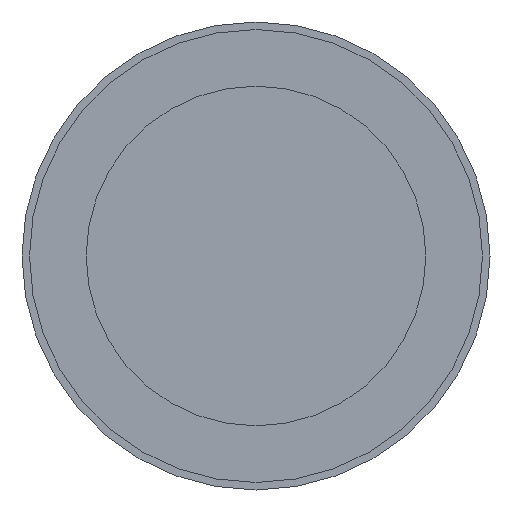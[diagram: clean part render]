
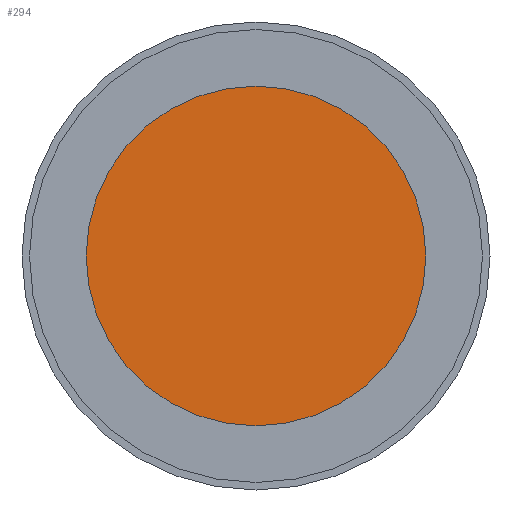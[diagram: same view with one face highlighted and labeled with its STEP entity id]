
A CAD part, front view. The second image highlights one B-rep face of the part: STEP entity #294.
In plain terms, the highlighted planar face has unit normal (0, -1, 0).
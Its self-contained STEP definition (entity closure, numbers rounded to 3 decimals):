
#5=CARTESIAN_POINT('',(0.,0.,0.));
#6=DIRECTION('',(0.,-1.,0.));
#7=DIRECTION('',(0.,0.,-1.));
#8=AXIS2_PLACEMENT_3D('',#5,#6,#7);
#14=CARTESIAN_POINT('',(0.,0.,0.));
#15=DIRECTION('',(0.,1.,0.));
#16=DIRECTION('',(0.,0.,-1.));
#17=AXIS2_PLACEMENT_3D('',#14,#15,#16);
#225=CARTESIAN_POINT('',(0.,0.,-0.45));
#227=VERTEX_POINT('',#225);
#255=CARTESIAN_POINT('',(0.,0.,0.45));
#257=VERTEX_POINT('',#255);
#283=CARTESIAN_POINT('',(0.,0.,0.));
#284=DIRECTION('',(0.,1.,0.));
#285=DIRECTION('',(0.,0.,-1.));
#286=AXIS2_PLACEMENT_3D('',#283,#284,#285);
#287=PLANE('',#286);
#289=ORIENTED_EDGE('',*,*,#288,.F.);
#291=ORIENTED_EDGE('',*,*,#290,.T.);
#292=EDGE_LOOP('',(#289,#291));
#293=FACE_OUTER_BOUND('',#292,.F.);
#294=ADVANCED_FACE('',(#293),#287,.F.);
#9=CIRCLE('',#8,0.45);
#18=CIRCLE('',#17,0.45);
#288=EDGE_CURVE('',#227,#257,#9,.T.);
#290=EDGE_CURVE('',#227,#257,#18,.T.);
